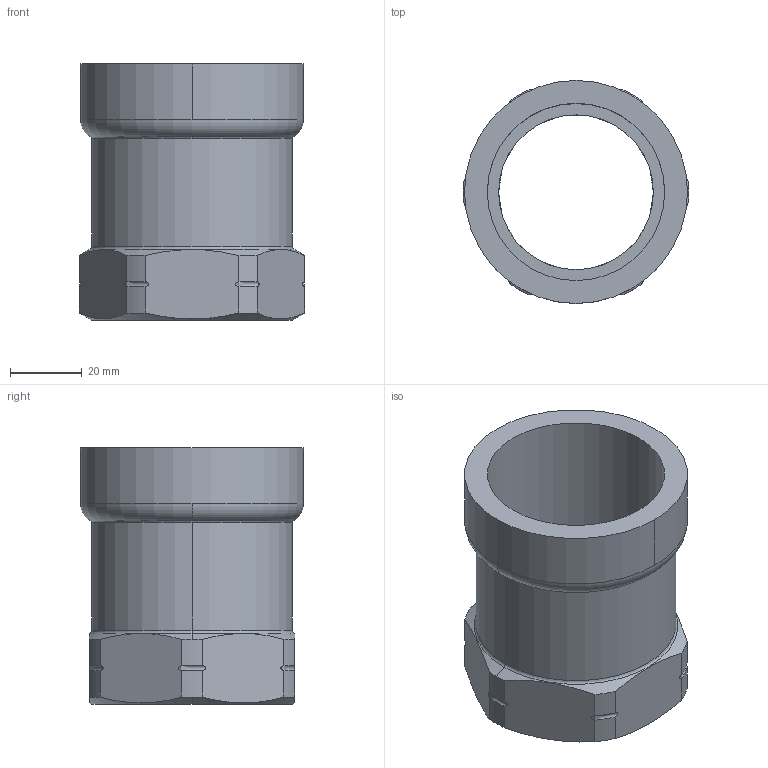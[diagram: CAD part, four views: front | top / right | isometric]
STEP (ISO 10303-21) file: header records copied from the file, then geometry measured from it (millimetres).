
FILE_DESCRIPTION(('Creo Elements/Direct Modeling STEP Export'),'2;1');
FILE_NAME('C9402_1-1-2.stp','2020-06-18T11:32:44',(''),(''),'PTC Creo Elements/Direct Modeling STEP processor for AP214 (Solid Model)','PTC Creo Elements/Direct Modeling 19.0C 15-Aug-2015 (C) Parametric Technology GmbH','');
FILE_SCHEMA(('AUTOMOTIVE_DESIGN { 1 0 10303 214 1 1 1 1 }'));
Length unit declared in the file: millimetre
Products named in the file (2): 9402_1-1-2
Assembly tree (1 placements, depth 2):
  9402_1-1-2
    9402_1-1-2
Bounding box: 62.7 x 62 x 71.17 mm (x, y, z)
Volume: 63298.6 mm3; surface area: 26698.9 mm2
Topology: 1 solids, 1 shells, 47 faces, 127 edges, 83 vertices
Faces by surface type: cylinder 18, torus 12, plane 9, cone 8
Entity records: 3820 total; most frequent: CARTESIAN_POINT 2756, ORIENTED_EDGE 254, DIRECTION 160, EDGE_CURVE 127, VERTEX_POINT 83, AXIS2_PLACEMENT_3D 67, EDGE_LOOP 50, FACE_OUTER_BOUND 47
